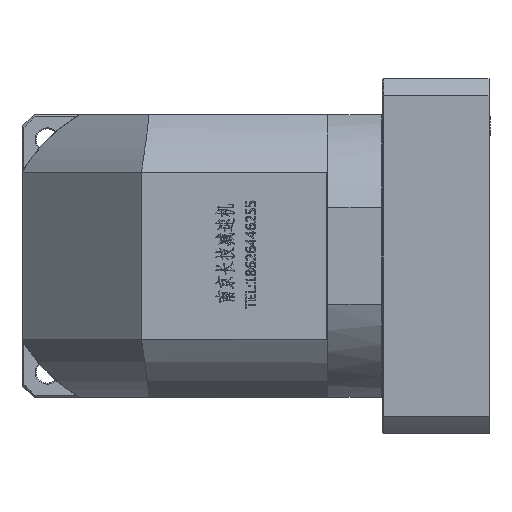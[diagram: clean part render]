
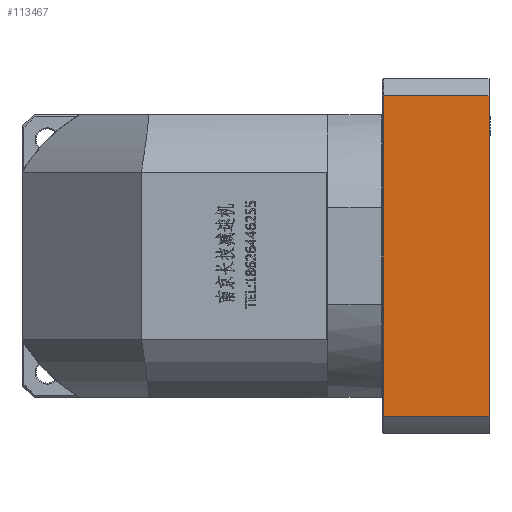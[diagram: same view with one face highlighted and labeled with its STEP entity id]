
A CAD part, left-side view. The second image highlights one B-rep face of the part: STEP entity #113467.
In plain terms, the highlighted planar face has unit normal (-1, 0, 0).
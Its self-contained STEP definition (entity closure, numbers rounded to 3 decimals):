
#2364 = EDGE_CURVE ( 'NONE', #154380, #172984, #81054, .T. ) ;
#7487 = DIRECTION ( 'NONE',  ( 0., 1., 0. ) ) ;
#9441 = EDGE_CURVE ( 'NONE', #125883, #165890, #86711, .T. ) ;
#14480 = CARTESIAN_POINT ( 'NONE',  ( -47.552, -223.819, 317.864 ) ) ;
#14638 = PLANE ( 'NONE',  #136792 ) ;
#15220 = DIRECTION ( 'NONE',  ( 0., 1., 0. ) ) ;
#25221 = VECTOR ( 'NONE', #7487, 1000. ) ;
#35409 = CARTESIAN_POINT ( 'NONE',  ( -47.552, -223.319, 156.879 ) ) ;
#39187 = ORIENTED_EDGE ( 'NONE', *, *, #147209, .F. ) ;
#41997 = DIRECTION ( 'NONE',  ( 0., -1., 0. ) ) ;
#46514 = CARTESIAN_POINT ( 'NONE',  ( -47.552, -170.319, 156.879 ) ) ;
#50022 = ORIENTED_EDGE ( 'NONE', *, *, #9441, .F. ) ;
#55299 = CARTESIAN_POINT ( 'NONE',  ( -47.552, -223.819, 148.371 ) ) ;
#56845 = EDGE_CURVE ( 'NONE', #165890, #172984, #93464, .T. ) ;
#69587 = VECTOR ( 'NONE', #128815, 1000. ) ;
#70080 = FACE_OUTER_BOUND ( 'NONE', #145578, .T. ) ;
#81054 = LINE ( 'NONE', #99024, #153673 ) ;
#85172 = CARTESIAN_POINT ( 'NONE',  ( -47.552, -170.319, 317.864 ) ) ;
#86711 = LINE ( 'NONE', #115114, #69587 ) ;
#88069 = CARTESIAN_POINT ( 'NONE',  ( -47.552, 172.986, 156.879 ) ) ;
#93464 = LINE ( 'NONE', #88069, #25221 ) ;
#96999 = DIRECTION ( 'NONE',  ( 1., 0., 0. ) ) ;
#97828 = DIRECTION ( 'NONE',  ( 0., 0., -1. ) ) ;
#99024 = CARTESIAN_POINT ( 'NONE',  ( -47.552, -170.319, 148.371 ) ) ;
#107831 = ORIENTED_EDGE ( 'NONE', *, *, #2364, .T. ) ;
#113467 = ADVANCED_FACE ( 'NONE', ( #70080 ), #14638, .F. ) ;
#115114 = CARTESIAN_POINT ( 'NONE',  ( -47.552, -223.319, 148.371 ) ) ;
#116120 = ORIENTED_EDGE ( 'NONE', *, *, #56845, .F. ) ;
#125883 = VERTEX_POINT ( 'NONE', #151335 ) ;
#128815 = DIRECTION ( 'NONE',  ( 0., 0., -1. ) ) ;
#136792 = AXIS2_PLACEMENT_3D ( 'NONE', #55299, #96999, #15220 ) ;
#145578 = EDGE_LOOP ( 'NONE', ( #39187, #107831, #116120, #50022 ) ) ;
#147209 = EDGE_CURVE ( 'NONE', #154380, #125883, #162546, .T. ) ;
#151335 = CARTESIAN_POINT ( 'NONE',  ( -47.552, -223.319, 317.864 ) ) ;
#153673 = VECTOR ( 'NONE', #97828, 1000. ) ;
#154380 = VERTEX_POINT ( 'NONE', #85172 ) ;
#162546 = LINE ( 'NONE', #14480, #175376 ) ;
#165890 = VERTEX_POINT ( 'NONE', #35409 ) ;
#172984 = VERTEX_POINT ( 'NONE', #46514 ) ;
#175376 = VECTOR ( 'NONE', #41997, 1000. ) ;
